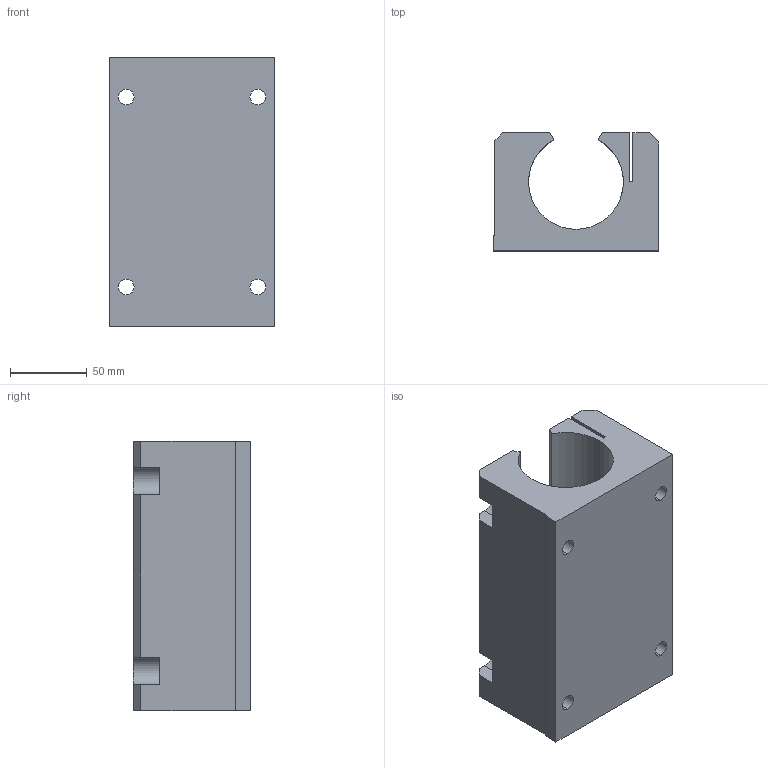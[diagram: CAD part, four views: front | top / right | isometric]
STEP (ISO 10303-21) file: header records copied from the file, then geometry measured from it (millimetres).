
FILE_DESCRIPTION (( 'STEP AP214' ), '1' );
FILE_NAME ('KTGOE34-40.step', '2020-03-04T13:29:24', ( '' ), ( '' ), 'SwSTEP 2.0', 'SolidWorks 2019', '' );
FILE_SCHEMA (( 'AUTOMOTIVE_DESIGN' ));
Length unit declared in the file: millimetre
Products named in the file (1): KTGOE34-40
Bounding box: 108 x 77 x 176 mm (x, y, z)
Volume: 847025.1 mm3; surface area: 120286.2 mm2
Topology: 1 solids, 1 shells, 80 faces, 234 edges, 153 vertices
Faces by surface type: plane 41, cylinder 35, cone 4
Entity records: 3018 total; most frequent: CARTESIAN_POINT 582, ORIENTED_EDGE 464, DIRECTION 456, EDGE_CURVE 232, LINE 154, VECTOR 154, VERTEX_POINT 153, AXIS2_PLACEMENT_3D 151
